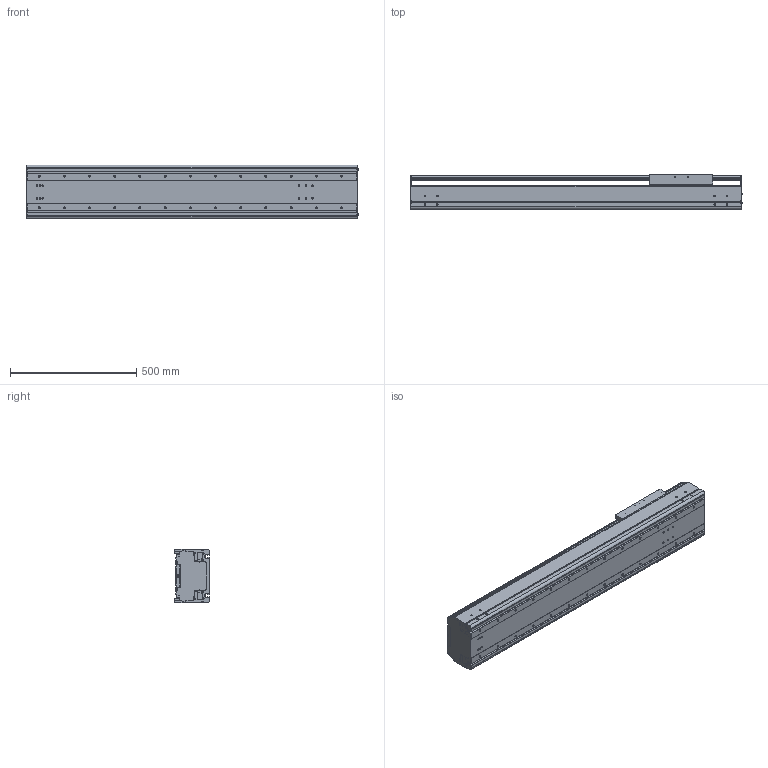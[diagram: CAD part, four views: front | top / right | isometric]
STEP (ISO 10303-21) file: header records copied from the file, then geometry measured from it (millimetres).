
FILE_DESCRIPTION((''),'2;1');
FILE_NAME('BE60G-ST-M_N-90_IGS_PRT','2017-06-18T',(' '),(''),'PRO/ENGINEER BY PARAMETRIC TECHNOLOGY CORPORATION, 2015030','PRO/ENGINEER BY PARAMETRIC TECHNOLOGY CORPORATION, 2015030','');
FILE_SCHEMA(('CONFIG_CONTROL_DESIGN'));
Length unit declared in the file: millimetre
Products named in the file (1): BE60G-ST-M_N-90_IGS_PRT
Bounding box: 1317.4 x 140 x 214 mm (x, y, z)
Volume: 10622703 mm3; surface area: 2832086.5 mm2
Topology: 2 solids, 136 shells, 1534 faces, 4272 edges, 2804 vertices
Faces by surface type: cylinder 776, plane 606, cone 104, sphere 24, torus 24
Entity records: 51086 total; most frequent: CARTESIAN_POINT 11480, DIRECTION 8334, ORIENTED_EDGE 7816, EDGE_CURVE 4172, AXIS2_PLACEMENT_3D 3095, VERTEX_POINT 2804, VECTOR 2144, LINE 2144
